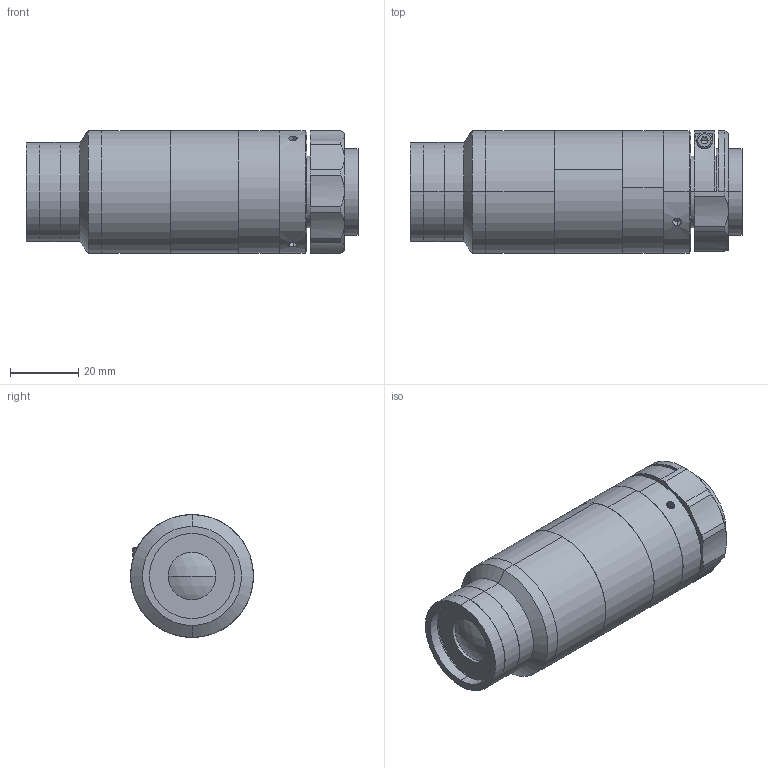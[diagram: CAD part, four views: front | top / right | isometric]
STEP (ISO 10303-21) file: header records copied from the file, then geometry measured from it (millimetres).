
FILE_DESCRIPTION (( 'STEP AP203' ), '1' );
FILE_NAME ('XF-MH1X81.STEP', '2020-08-24T07:08:46', ( 'canrill-02' ), ( '' ), 'SwSTEP 2.0', 'SolidWorks 2014', '' );
FILE_SCHEMA (( 'CONFIG_CONTROL_DESIGN' ));
Length unit declared in the file: millimetre
Products named in the file (1): XF-MH1X81
Bounding box: 97.24 x 36 x 36 mm (x, y, z)
Surface area: 17038.6 mm2 (no closed solid volume)
Topology: 0 solids, 13 shells, 106 faces, 280 edges, 190 vertices
Faces by surface type: cylinder 51, plane 36, cone 15, sphere 2, torus 2
Entity records: 3669 total; most frequent: CARTESIAN_POINT 896, DIRECTION 621, ORIENTED_EDGE 475, EDGE_CURVE 278, AXIS2_PLACEMENT_3D 259, VERTEX_POINT 190, CIRCLE 152, EDGE_LOOP 132
